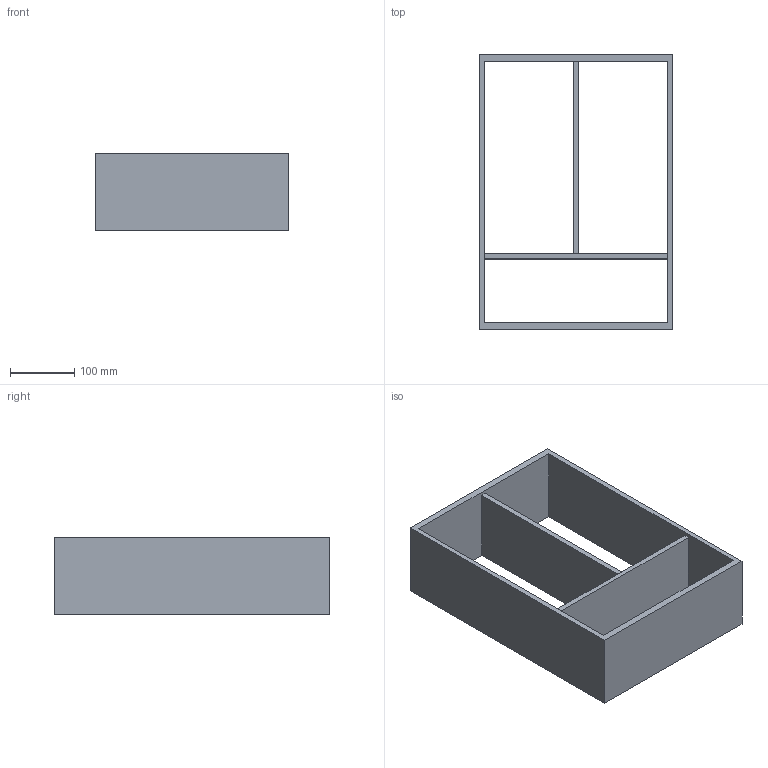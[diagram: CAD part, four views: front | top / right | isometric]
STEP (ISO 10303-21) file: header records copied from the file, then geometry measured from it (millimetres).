
FILE_DESCRIPTION (( 'STEP AP214' ), '1' );
FILE_NAME ('Vario Multi H120 NL450_B400_19 mm_Alu-Alu.step', '2010-10-08T09:47:54', ( 'grass' ), ( '' ), 'SwSTEP 2.0', 'SolidWorks 2010', '' );
FILE_SCHEMA (( 'AUTOMOTIVE_DESIGN' ));
Length unit declared in the file: millimetre
Products named in the file (1): Vario Multi H120 NL450_B400_19 mm_Alu-Alu
Bounding box: 302 x 429 x 120 mm (x, y, z)
Volume: 2112850.8 mm3; surface area: 507330.3 mm2
Topology: 1 solids, 1 shells, 18 faces, 48 edges, 32 vertices
Faces by surface type: plane 18
Entity records: 598 total; most frequent: CARTESIAN_POINT 99, ORIENTED_EDGE 96, DIRECTION 86, LINE 48, VECTOR 48, EDGE_CURVE 48, VERTEX_POINT 32, EDGE_LOOP 24
